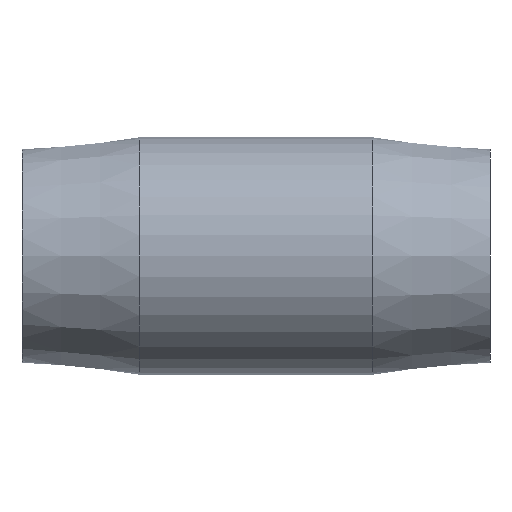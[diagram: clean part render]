
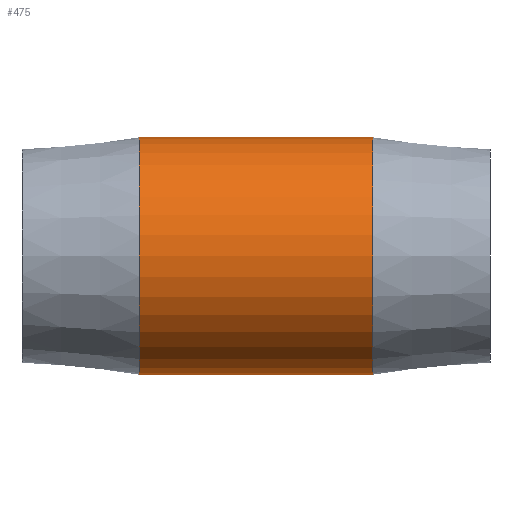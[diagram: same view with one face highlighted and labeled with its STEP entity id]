
A CAD part, front view. The second image highlights one B-rep face of the part: STEP entity #475.
In plain terms, the highlighted cylindrical face has radius 18.034 mm (diameter 36.068 mm), a full revolution.
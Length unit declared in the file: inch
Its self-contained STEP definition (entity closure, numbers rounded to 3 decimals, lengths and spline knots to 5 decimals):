
#47=LINE('',#902,#63);
#63=VECTOR('',#649,0.71);
#77=CYLINDRICAL_SURFACE('',#537,0.71);
#97=FACE_OUTER_BOUND('',#131,.T.);
#131=EDGE_LOOP('',(#357,#358,#359,#360,#361,#362,#363,#364));
#163=CIRCLE('',#533,0.71);
#164=CIRCLE('',#536,0.71);
#165=CIRCLE('',#538,0.71);
#166=CIRCLE('',#539,0.71);
#167=CIRCLE('',#540,0.71);
#168=CIRCLE('',#541,0.71);
#207=VERTEX_POINT('',#785);
#210=VERTEX_POINT('',#810);
#211=VERTEX_POINT('',#843);
#213=VERTEX_POINT('',#853);
#215=VERTEX_POINT('',#899);
#216=VERTEX_POINT('',#901);
#264=EDGE_CURVE('',#210,#207,#163,.T.);
#270=EDGE_CURVE('',#213,#211,#164,.T.);
#271=EDGE_CURVE('',#215,#210,#165,.T.);
#272=EDGE_CURVE('',#215,#216,#47,.T.);
#273=EDGE_CURVE('',#216,#213,#166,.T.);
#274=EDGE_CURVE('',#211,#216,#167,.T.);
#275=EDGE_CURVE('',#207,#215,#168,.T.);
#357=ORIENTED_EDGE('',*,*,#264,.F.);
#358=ORIENTED_EDGE('',*,*,#271,.F.);
#359=ORIENTED_EDGE('',*,*,#272,.T.);
#360=ORIENTED_EDGE('',*,*,#273,.T.);
#361=ORIENTED_EDGE('',*,*,#270,.T.);
#362=ORIENTED_EDGE('',*,*,#274,.T.);
#363=ORIENTED_EDGE('',*,*,#272,.F.);
#364=ORIENTED_EDGE('',*,*,#275,.F.);
#475=ADVANCED_FACE('',(#97),#77,.T.);
#533=AXIS2_PLACEMENT_3D('',#841,#636,#637);
#536=AXIS2_PLACEMENT_3D('',#897,#643,#644);
#537=AXIS2_PLACEMENT_3D('',#898,#645,#646);
#538=AXIS2_PLACEMENT_3D('',#900,#647,#648);
#539=AXIS2_PLACEMENT_3D('',#903,#650,#651);
#540=AXIS2_PLACEMENT_3D('',#904,#652,#653);
#541=AXIS2_PLACEMENT_3D('',#905,#654,#655);
#636=DIRECTION('center_axis',(1.,0.,0.));
#637=DIRECTION('ref_axis',(0.,0.,-1.));
#643=DIRECTION('center_axis',(1.,0.,0.));
#644=DIRECTION('ref_axis',(0.,0.,-1.));
#645=DIRECTION('center_axis',(1.,0.,0.));
#646=DIRECTION('ref_axis',(0.,1.,0.));
#647=DIRECTION('center_axis',(1.,0.,0.));
#648=DIRECTION('ref_axis',(0.,0.,-1.));
#649=DIRECTION('',(-1.,0.,0.));
#650=DIRECTION('center_axis',(1.,0.,0.));
#651=DIRECTION('ref_axis',(0.,0.,-1.));
#652=DIRECTION('center_axis',(1.,0.,0.));
#653=DIRECTION('ref_axis',(0.,0.,-1.));
#654=DIRECTION('center_axis',(1.,0.,0.));
#655=DIRECTION('ref_axis',(0.,0.,-1.));
#785=CARTESIAN_POINT('',(0.7,0.66812,0.24023));
#810=CARTESIAN_POINT('',(0.7,0.66812,-0.24023));
#841=CARTESIAN_POINT('Origin',(0.7,0.,0.));
#843=CARTESIAN_POINT('',(-0.7,0.66812,0.24023));
#853=CARTESIAN_POINT('',(-0.7,0.66812,-0.24023));
#897=CARTESIAN_POINT('Origin',(-0.7,0.,0.));
#898=CARTESIAN_POINT('Origin',(0.,0.,0.));
#899=CARTESIAN_POINT('',(0.7,-0.71,0.));
#900=CARTESIAN_POINT('Origin',(0.7,0.,0.));
#901=CARTESIAN_POINT('',(-0.7,-0.71,0.));
#902=CARTESIAN_POINT('',(0.,-0.71,0.));
#903=CARTESIAN_POINT('Origin',(-0.7,0.,0.));
#904=CARTESIAN_POINT('Origin',(-0.7,0.,0.));
#905=CARTESIAN_POINT('Origin',(0.7,0.,0.));
